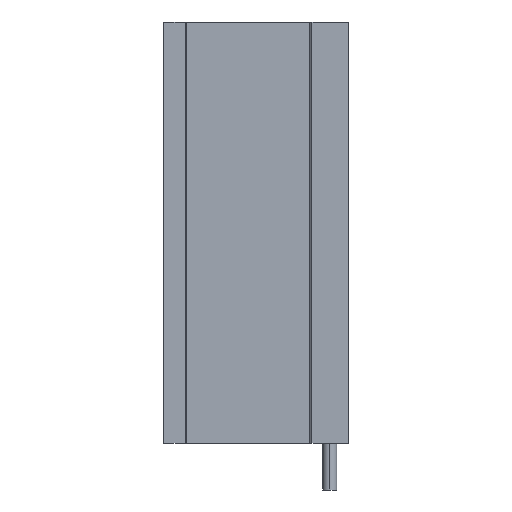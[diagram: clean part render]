
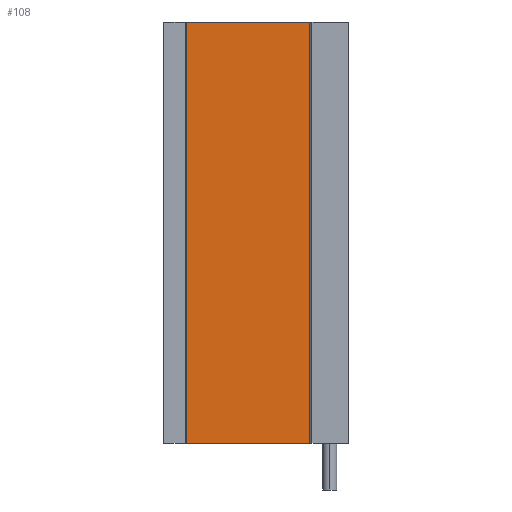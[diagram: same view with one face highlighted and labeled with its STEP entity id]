
A CAD part, left-side view. The second image highlights one B-rep face of the part: STEP entity #108.
In plain terms, the highlighted planar face has unit normal (-1, 0, 0).
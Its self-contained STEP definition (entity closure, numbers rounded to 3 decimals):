
#26 = DIRECTION ( 'NONE',  ( 0., -1., 0. ) ) ;
#108 = ADVANCED_FACE ( 'NONE', ( #846 ), #1740, .F. ) ;
#214 = ORIENTED_EDGE ( 'NONE', *, *, #1649, .F. ) ;
#333 = LINE ( 'NONE', #1408, #642 ) ;
#387 = AXIS2_PLACEMENT_3D ( 'NONE', #731, #933, #2117 ) ;
#426 = CARTESIAN_POINT ( 'NONE',  ( -3.8, -62.7, 0. ) ) ;
#518 = CARTESIAN_POINT ( 'NONE',  ( -3.8, -9.795, 0. ) ) ;
#541 = EDGE_LOOP ( 'NONE', ( #1129, #214, #672, #876 ) ) ;
#614 = DIRECTION ( 'NONE',  ( 0., -1., 0. ) ) ;
#642 = VECTOR ( 'NONE', #614, 1000. ) ;
#660 = EDGE_CURVE ( 'NONE', #1894, #2026, #2139, .T. ) ;
#672 = ORIENTED_EDGE ( 'NONE', *, *, #688, .F. ) ;
#688 = EDGE_CURVE ( 'NONE', #1550, #2560, #333, .T. ) ;
#731 = CARTESIAN_POINT ( 'NONE',  ( -3.8, -62.7, 181. ) ) ;
#846 = FACE_OUTER_BOUND ( 'NONE', #541, .T. ) ;
#876 = ORIENTED_EDGE ( 'NONE', *, *, #2298, .T. ) ;
#933 = DIRECTION ( 'NONE',  ( 1., 0., 0. ) ) ;
#935 = CARTESIAN_POINT ( 'NONE',  ( -3.8, -62.7, 181. ) ) ;
#1071 = LINE ( 'NONE', #1615, #1166 ) ;
#1129 = ORIENTED_EDGE ( 'NONE', *, *, #660, .T. ) ;
#1160 = CARTESIAN_POINT ( 'NONE',  ( -3.8, -62.7, 0. ) ) ;
#1166 = VECTOR ( 'NONE', #2024, 1000. ) ;
#1408 = CARTESIAN_POINT ( 'NONE',  ( -3.8, -62.7, 181. ) ) ;
#1550 = VERTEX_POINT ( 'NONE', #1826 ) ;
#1615 = CARTESIAN_POINT ( 'NONE',  ( -3.8, -62.7, 181. ) ) ;
#1649 = EDGE_CURVE ( 'NONE', #2560, #2026, #1071, .T. ) ;
#1736 = VECTOR ( 'NONE', #2082, 1000. ) ;
#1740 = PLANE ( 'NONE',  #387 ) ;
#1826 = CARTESIAN_POINT ( 'NONE',  ( -3.8, -9.795, 181. ) ) ;
#1894 = VERTEX_POINT ( 'NONE', #518 ) ;
#2024 = DIRECTION ( 'NONE',  ( 0., 0., -1. ) ) ;
#2026 = VERTEX_POINT ( 'NONE', #1160 ) ;
#2082 = DIRECTION ( 'NONE',  ( 0., 0., -1. ) ) ;
#2117 = DIRECTION ( 'NONE',  ( 0., 1., 0. ) ) ;
#2139 = LINE ( 'NONE', #426, #2226 ) ;
#2226 = VECTOR ( 'NONE', #26, 1000. ) ;
#2244 = CARTESIAN_POINT ( 'NONE',  ( -3.8, -9.795, 181. ) ) ;
#2298 = EDGE_CURVE ( 'NONE', #1550, #1894, #2420, .T. ) ;
#2420 = LINE ( 'NONE', #2244, #1736 ) ;
#2560 = VERTEX_POINT ( 'NONE', #935 ) ;
